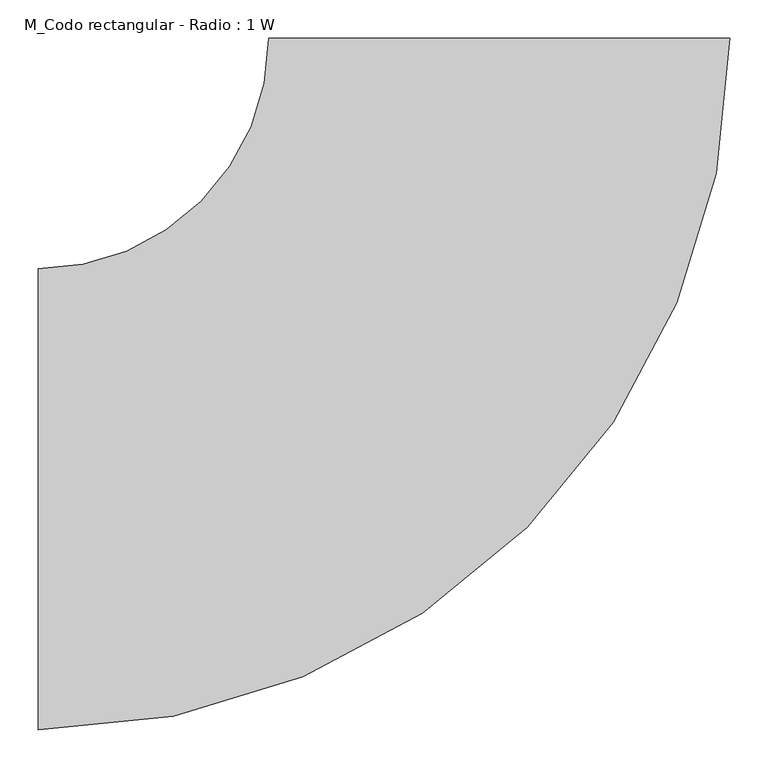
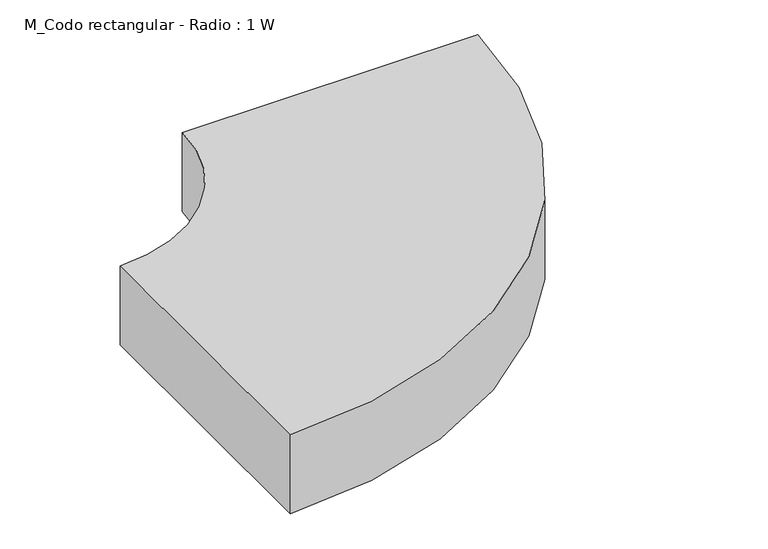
"""IFC4 building model written with IfcOpenShell, lengths in millimetres: duct fitting geometry, M_Codo rectangular - Radio : 1 W."""

from ifc_helpers import new_model, si_unit, point, frame, frame_2d, origin, place, context, project, spatial, polyline, circle_curve, trimmed, segment, composite_curve, outline, extrude, source, transform, mapped, element, save


def m_codo_rectangular_radio_1_w_476f56f9(model_context):
    return source(origin(), model_context, "Body", "SweptSolid", [
        extrude(outline(composite_curve([segment(trimmed(circle_curve(frame_2d((-600.0, 600.0)), 900.0), [point((300.0, 600.0))], [point((-600.0, -300.0))], False, "CARTESIAN"), True, "CONTINUOUS"), segment(polyline([(-600.0, -300.0), (-600.0, 300.0)]), True, "CONTINUOUS"), segment(trimmed(circle_curve(frame_2d((-600.0, 600.0)), 300.0), [point((-600.0, 300.0))], [point((-300.0, 600.0))], True, "CARTESIAN"), True, "CONTINUOUS"), segment(polyline([(-300.0, 600.0), (300.0, 600.0)]), True, "CONTINUOUS")], self_intersect=False)), frame((0.0, 0.0, -85.0), z_axis=(0.0, 0.0, 1.0), x_axis=(1.0, 0.0, 0.0)), (0.0, 0.0, 1.0), 170.0),
    ])


if __name__ == "__main__":
    model = new_model("IFC4")
    model_context = context("Model", 3, world=origin())
    ifc_project = project(units=[si_unit("LENGTHUNIT", "METRE", prefix="MILLI")], contexts=[model_context])
    site = spatial("IfcSite", under=ifc_project)
    building = spatial("IfcBuilding", under=site)
    placement = place(None, origin())
    m_codo_rectangular_radio_1_w_shape = m_codo_rectangular_radio_1_w_476f56f9(model_context)
    element("IfcDuctFitting", 1, ObjectType="M_Codo rectangular - Radio : 1 W", at=placement, inside=building, context=model_context, shape_type="MappedRepresentation", body=[
        mapped(m_codo_rectangular_radio_1_w_shape, transform((0.0, 0.0, 0.0), x_axis=(1.0, 0.0, 0.0), y_axis=(0.0, 1.0, 0.0), z_axis=(0.0, 0.0, 1.0))),
    ])
    save(model, "model.ifc")
